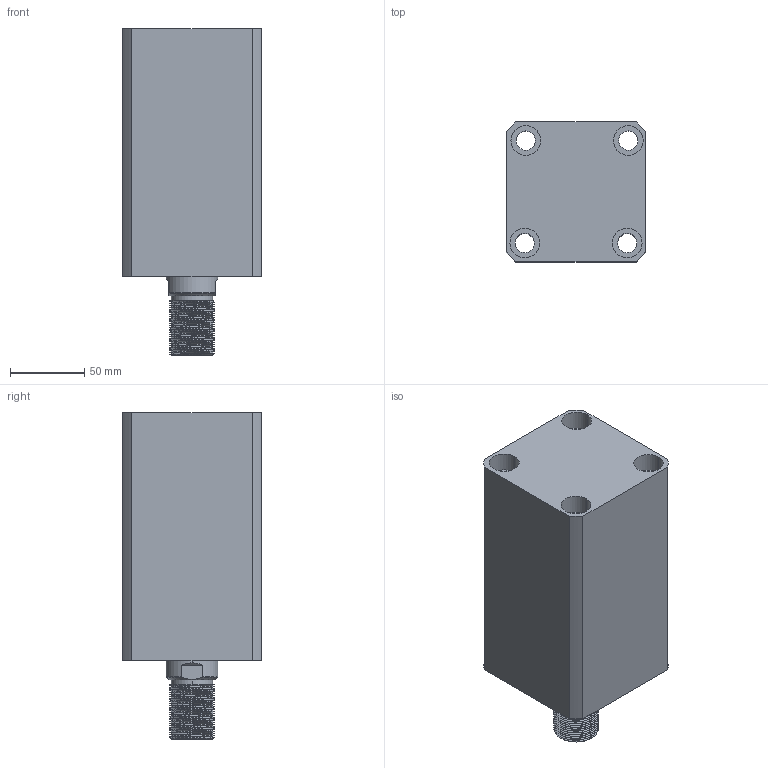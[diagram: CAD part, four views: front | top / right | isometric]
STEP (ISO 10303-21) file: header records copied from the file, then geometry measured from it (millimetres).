
FILE_DESCRIPTION (( 'STEP AP214' ), '1' );
FILE_NAME ('chtb-sdma63x100w_asm.STEP', '2018-05-18T09:46:42', ( 'Windows' ), ( 'Microsoft' ), 'SwSTEP 2.0', 'SolidWorks 2015', '' );
FILE_SCHEMA (( 'AUTOMOTIVE_DESIGN' ));
Length unit declared in the file: millimetre
Products named in the file (4): CHTB-SDMA63X100NBT; CHTB63X100WHSG; CHTB-63QG; chtb-sdma63x100w_asm
Assembly tree (3 placements, depth 2):
  chtb-sdma63x100w_asm
    CHTB-63QG
    CHTB63X100WHSG
    CHTB-SDMA63X100NBT
Bounding box: 94 x 94 x 220 mm (x, y, z)
Volume: 1174423 mm3; surface area: 192964.8 mm2
Topology: 3 solids, 3 shells, 219 faces, 632 edges, 430 vertices
Faces by surface type: cylinder 156, plane 34, bspline 14, cone 9, torus 6
Entity records: 22297 total; most frequent: CARTESIAN_POINT 17024, ORIENTED_EDGE 1256, DIRECTION 878, EDGE_CURVE 628, VERTEX_POINT 430, AXIS2_PLACEMENT_3D 343, EDGE_LOOP 252, FACE_OUTER_BOUND 219
